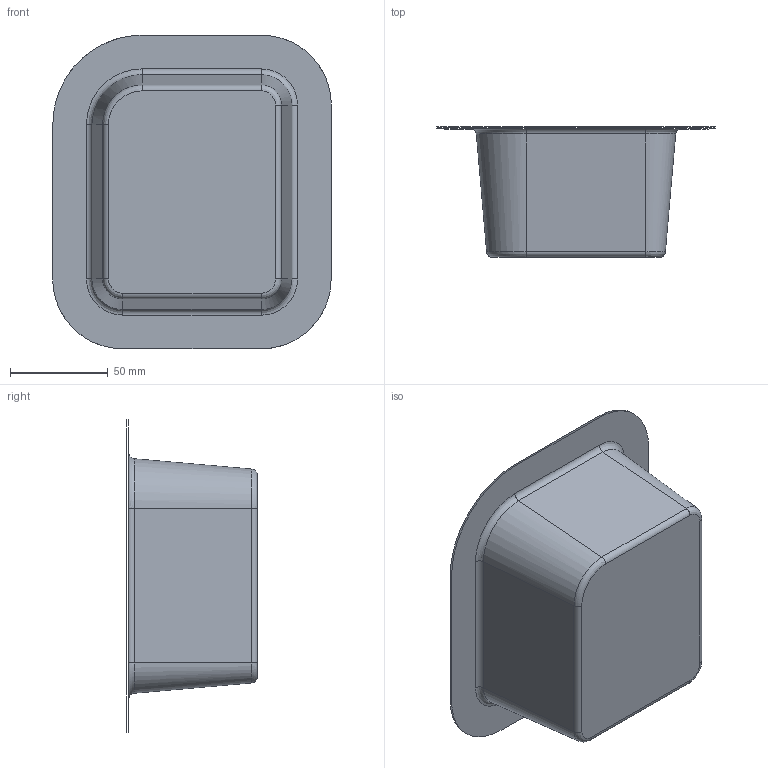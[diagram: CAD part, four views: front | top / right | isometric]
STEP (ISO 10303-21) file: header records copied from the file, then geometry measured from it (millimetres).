
FILE_DESCRIPTION(('CATIA V5 STEP Exchange'),'2;1');
FILE_NAME('C:\_Andres\UNIVERSIDAD\IQS\ASIGNATURAS\DAO\Controles\1617\c3\2inicio\Domeque_Sanz_control3_v9.stp','2017-02-17T14:22:04+00:00',('none'),('none'),'CATIA Version 5-6 Release 2014 SP1 HF18','CATIA V5 STEP AP203','none');
FILE_SCHEMA(('CONFIG_CONTROL_DESIGN'));
Length unit declared in the file: millimetre
Products named in the file (1): Domeque_Sanz_control3_v9
Bounding box: 142.5 x 66.75 x 160.5 mm (x, y, z)
Surface area: 66265.1 mm2 (no closed solid volume)
Topology: 0 solids, 2 shells, 27 faces, 80 edges, 57 vertices
Faces by surface type: bspline 16, cylinder 8, plane 3
Entity records: 1907 total; most frequent: CARTESIAN_POINT 1311, ORIENTED_EDGE 128, EDGE_CURVE 72, B_SPLINE_CURVE_WITH_KNOTS 54, DIRECTION 50, VERTEX_POINT 48, EDGE_LOOP 28, ADVANCED_FACE 27
